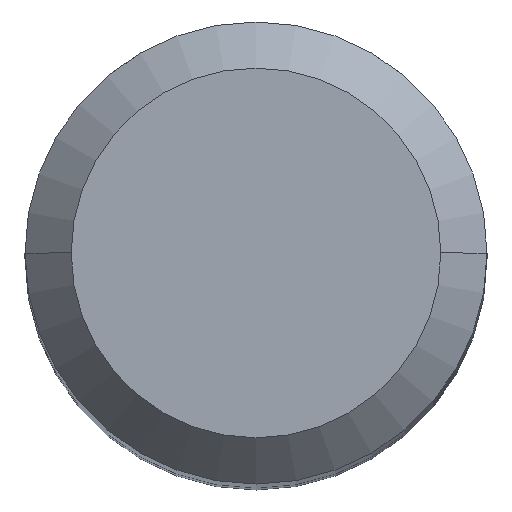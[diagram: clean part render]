
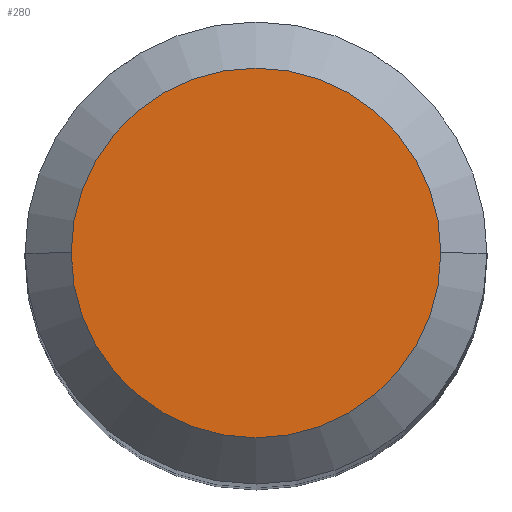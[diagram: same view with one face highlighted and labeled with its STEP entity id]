
A CAD part, top view. The second image highlights one B-rep face of the part: STEP entity #280.
In plain terms, the highlighted planar face has unit normal (0, 0, 1).
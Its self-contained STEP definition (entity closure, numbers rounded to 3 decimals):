
#6 = EDGE_CURVE ( 'NONE', #87, #165, #76, .T. ) ;
#22 = CARTESIAN_POINT ( 'NONE',  ( 0., 0., 0. ) ) ;
#35 = DIRECTION ( 'NONE',  ( 0., 0., 1. ) ) ;
#72 = DIRECTION ( 'NONE',  ( 1., 0., 0. ) ) ;
#74 = EDGE_CURVE ( 'NONE', #165, #87, #160, .T. ) ;
#76 = CIRCLE ( 'NONE', #340, 5.6 ) ;
#77 = AXIS2_PLACEMENT_3D ( 'NONE', #359, #35, #72 ) ;
#87 = VERTEX_POINT ( 'NONE', #217 ) ;
#124 = ORIENTED_EDGE ( 'NONE', *, *, #6, .F. ) ;
#142 = PLANE ( 'NONE',  #77 ) ;
#160 = CIRCLE ( 'NONE', #421, 5.6 ) ;
#165 = VERTEX_POINT ( 'NONE', #179 ) ;
#179 = CARTESIAN_POINT ( 'NONE',  ( -5.6, 0., 0. ) ) ;
#217 = CARTESIAN_POINT ( 'NONE',  ( 5.6, 0., 0. ) ) ;
#226 = EDGE_LOOP ( 'NONE', ( #413, #124 ) ) ;
#245 = DIRECTION ( 'NONE',  ( 0., 0., -1. ) ) ;
#280 = ADVANCED_FACE ( 'NONE', ( #352 ), #142, .T. ) ;
#306 = CARTESIAN_POINT ( 'NONE',  ( 0., 0., 0. ) ) ;
#340 = AXIS2_PLACEMENT_3D ( 'NONE', #306, #350, #341 ) ;
#341 = DIRECTION ( 'NONE',  ( -1., 0., 0. ) ) ;
#350 = DIRECTION ( 'NONE',  ( 0., 0., -1. ) ) ;
#352 = FACE_OUTER_BOUND ( 'NONE', #226, .T. ) ;
#359 = CARTESIAN_POINT ( 'NONE',  ( 0., 5.6, 0. ) ) ;
#413 = ORIENTED_EDGE ( 'NONE', *, *, #74, .F. ) ;
#421 = AXIS2_PLACEMENT_3D ( 'NONE', #22, #245, #437 ) ;
#437 = DIRECTION ( 'NONE',  ( -1., 0., 0. ) ) ;
